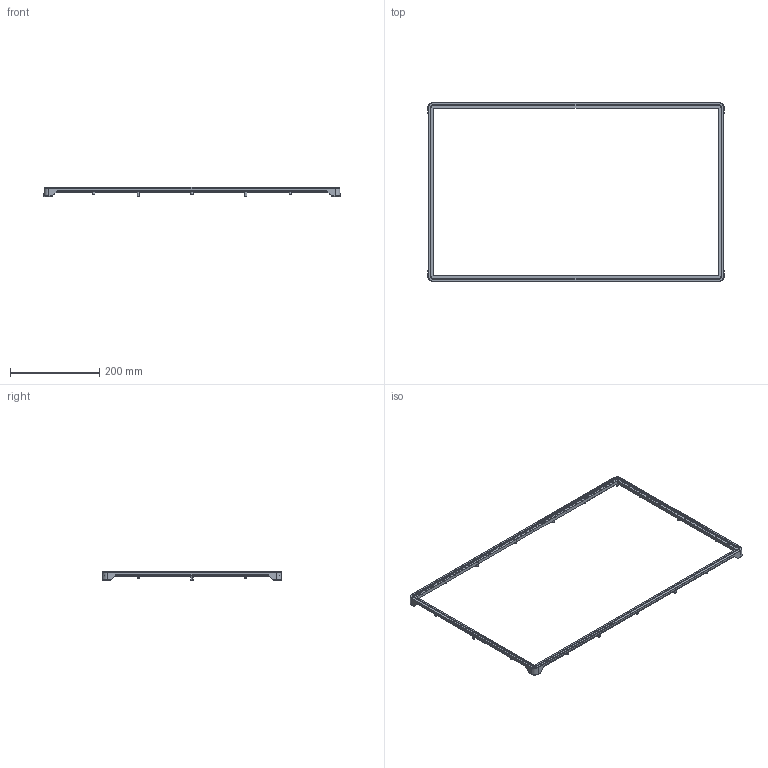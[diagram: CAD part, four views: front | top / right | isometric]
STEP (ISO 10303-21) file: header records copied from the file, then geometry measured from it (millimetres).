
FILE_DESCRIPTION((''),'2;1');
FILE_NAME('190-ZHONGKUANG-NEW','2019-11-12T16:00:02',('TSD'),(''),'CREO PARAMETRIC BY PTC INC, 2016510','CREO PARAMETRIC BY PTC INC, 2016510','');
FILE_SCHEMA(('AUTOMOTIVE_DESIGN { 1 0 10303 214 1 1 1 1 }'));
Length unit declared in the file: millimetre
Products named in the file (1): 190-ZHONGKUANG-NEW
Bounding box: 662.25 x 400.85 x 21.5 mm (x, y, z)
Volume: 129871.4 mm3; surface area: 148039.1 mm2
Topology: 1 solids, 1 shells, 1644 faces, 4480 edges, 2960 vertices
Faces by surface type: plane 1460, cylinder 120, cone 52, torus 12
Entity records: 51477 total; most frequent: CARTESIAN_POINT 9552, ORIENTED_EDGE 8960, DIRECTION 8105, EDGE_CURVE 4480, VECTOR 3787, LINE 3787, VERTEX_POINT 2960, AXIS2_PLACEMENT_3D 2159
